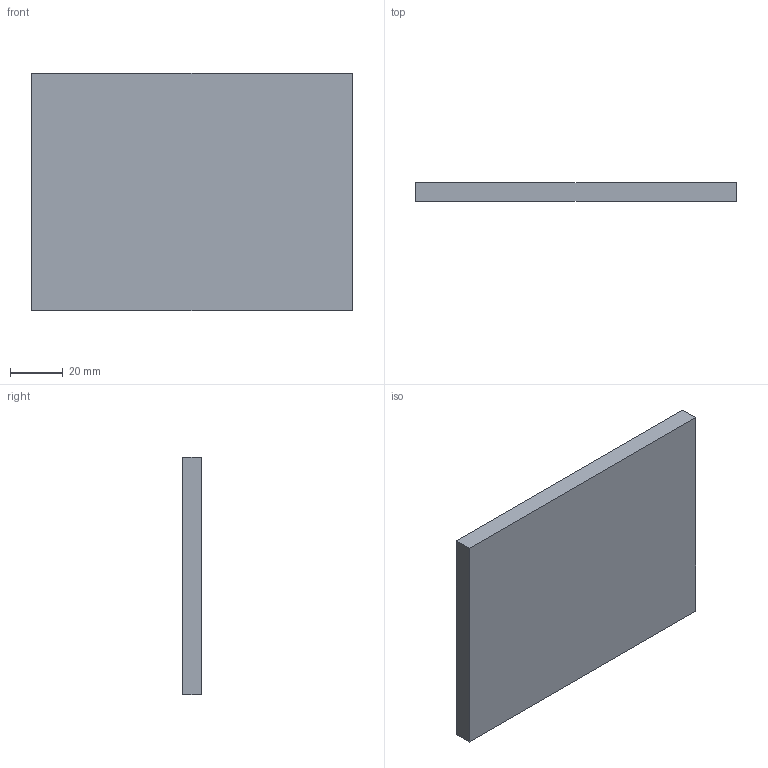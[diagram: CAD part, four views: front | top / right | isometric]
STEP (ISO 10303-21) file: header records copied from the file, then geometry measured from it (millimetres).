
FILE_DESCRIPTION(('Open CASCADE Model'),'2;1');
FILE_NAME('Open CASCADE Shape Model','2026-11-24T19:57:40',('Author'),( 'Open CASCADE'),'Open CASCADE STEP processor 7.8','Open CASCADE 7.8' ,'Unknown');
FILE_SCHEMA(('AUTOMOTIVE_DESIGN { 1 0 10303 214 1 1 1 1 }'));
Length unit declared in the file: millimetre
Products named in the file (1): Open CASCADE STEP translator 7.8 159
Bounding box: 121 x 7 x 89.48 mm (x, y, z)
Volume: 75789.6 mm3; surface area: 24600.9 mm2
Topology: 1 solids, 1 shells, 6 faces, 12 edges, 8 vertices
Faces by surface type: plane 6
Entity records: 322 total; most frequent: CARTESIAN_POINT 51, DIRECTION 50, LINE 36, VECTOR 36, ORIENTED_EDGE 24, PCURVE 24, DEFINITIONAL_REPRESENTATION 24, EDGE_CURVE 12
